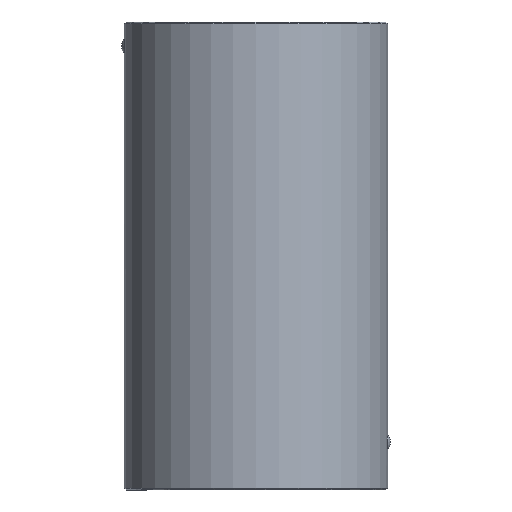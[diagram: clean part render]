
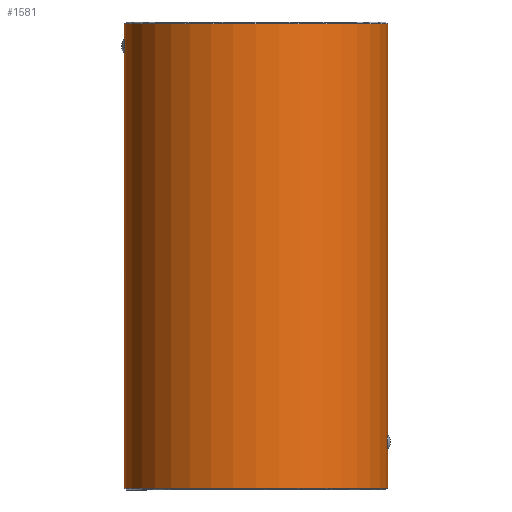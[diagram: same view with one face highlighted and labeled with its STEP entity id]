
A CAD part, front view. The second image highlights one B-rep face of the part: STEP entity #1581.
In plain terms, the highlighted cylindrical face has radius 22.5 mm (diameter 45 mm), a partial arc.
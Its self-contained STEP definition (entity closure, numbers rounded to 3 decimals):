
#1363=CARTESIAN_POINT('Vertex',(-22.5,0.,0.3)) ;
#1370=CARTESIAN_POINT('Vertex',(22.5,0.,0.3)) ;
#1373=CARTESIAN_POINT('Axis2P3D Location',(0.,0.,0.3)) ;
#1491=CARTESIAN_POINT('Axis2P3D Location',(0.,0.,80.)) ;
#1496=CARTESIAN_POINT('Line Origine',(22.5,0.,80.)) ;
#1500=CARTESIAN_POINT('Vertex',(22.5,0.,6.877)) ;
#1504=CARTESIAN_POINT('Control Point',(22.458,-1.369,8.201)) ;
#1505=CARTESIAN_POINT('Control Point',(22.458,-1.369,7.777)) ;
#1506=CARTESIAN_POINT('Control Point',(22.469,-1.194,7.356)) ;
#1507=CARTESIAN_POINT('Control Point',(22.49,-0.847,7.034)) ;
#1508=CARTESIAN_POINT('Control Point',(22.5,-0.424,6.877)) ;
#1509=CARTESIAN_POINT('Control Point',(22.5,0.,6.877)) ;
#1510=CARTESIAN_POINT('Vertex',(22.458,-1.369,8.201)) ;
#1514=CARTESIAN_POINT('Control Point',(22.5,0.,9.523)) ;
#1515=CARTESIAN_POINT('Control Point',(22.5,-0.423,9.523)) ;
#1516=CARTESIAN_POINT('Control Point',(22.49,-0.842,9.368)) ;
#1517=CARTESIAN_POINT('Control Point',(22.469,-1.194,9.046)) ;
#1518=CARTESIAN_POINT('Control Point',(22.458,-1.368,8.624)) ;
#1519=CARTESIAN_POINT('Control Point',(22.458,-1.369,8.201)) ;
#1520=CARTESIAN_POINT('Vertex',(22.5,0.,9.523)) ;
#1523=CARTESIAN_POINT('Line Origine',(22.5,0.,80.)) ;
#1527=CARTESIAN_POINT('Vertex',(22.5,0.,79.7)) ;
#1530=CARTESIAN_POINT('Axis2P3D Location',(0.,0.,79.7)) ;
#1534=CARTESIAN_POINT('Vertex',(-22.5,0.,79.7)) ;
#1537=CARTESIAN_POINT('Line Origine',(-22.5,0.,80.)) ;
#1541=CARTESIAN_POINT('Vertex',(-22.5,0.,77.223)) ;
#1545=CARTESIAN_POINT('Control Point',(-22.458,-1.369,75.899)) ;
#1546=CARTESIAN_POINT('Control Point',(-22.458,-1.369,76.323)) ;
#1547=CARTESIAN_POINT('Control Point',(-22.469,-1.194,76.744)) ;
#1548=CARTESIAN_POINT('Control Point',(-22.49,-0.847,77.066)) ;
#1549=CARTESIAN_POINT('Control Point',(-22.5,-0.424,77.223)) ;
#1550=CARTESIAN_POINT('Control Point',(-22.5,0.,77.223)) ;
#1551=CARTESIAN_POINT('Vertex',(-22.458,-1.369,75.899)) ;
#1555=CARTESIAN_POINT('Control Point',(-22.5,0.,74.577)) ;
#1556=CARTESIAN_POINT('Control Point',(-22.5,-0.423,74.577)) ;
#1557=CARTESIAN_POINT('Control Point',(-22.49,-0.842,74.732)) ;
#1558=CARTESIAN_POINT('Control Point',(-22.469,-1.194,75.054)) ;
#1559=CARTESIAN_POINT('Control Point',(-22.458,-1.368,75.476)) ;
#1560=CARTESIAN_POINT('Control Point',(-22.458,-1.369,75.899)) ;
#1561=CARTESIAN_POINT('Vertex',(-22.5,0.,74.577)) ;
#1564=CARTESIAN_POINT('Line Origine',(-22.5,0.,80.)) ;
#1374=DIRECTION('Axis2P3D Direction',(0.,-0.,1.)) ;
#1492=DIRECTION('Axis2P3D Direction',(0.,0.,-1.)) ;
#1493=DIRECTION('Axis2P3D XDirection',(1.,0.,0.)) ;
#1497=DIRECTION('Vector Direction',(0.,0.,-1.)) ;
#1524=DIRECTION('Vector Direction',(0.,0.,-1.)) ;
#1531=DIRECTION('Axis2P3D Direction',(0.,0.,-1.)) ;
#1538=DIRECTION('Vector Direction',(0.,0.,-1.)) ;
#1565=DIRECTION('Vector Direction',(0.,0.,-1.)) ;
#1375=AXIS2_PLACEMENT_3D('Circle Axis2P3D',#1373,#1374,$) ;
#1494=AXIS2_PLACEMENT_3D('Cylinder Axis2P3D',#1491,#1492,#1493) ;
#1532=AXIS2_PLACEMENT_3D('Circle Axis2P3D',#1530,#1531,$) ;
#1570=ORIENTED_EDGE('',*,*,#1502,.T.) ;
#1571=ORIENTED_EDGE('',*,*,#1512,.F.) ;
#1572=ORIENTED_EDGE('',*,*,#1522,.F.) ;
#1573=ORIENTED_EDGE('',*,*,#1529,.T.) ;
#1574=ORIENTED_EDGE('',*,*,#1536,.F.) ;
#1575=ORIENTED_EDGE('',*,*,#1543,.T.) ;
#1576=ORIENTED_EDGE('',*,*,#1553,.F.) ;
#1577=ORIENTED_EDGE('',*,*,#1563,.F.) ;
#1578=ORIENTED_EDGE('',*,*,#1568,.T.) ;
#1579=ORIENTED_EDGE('',*,*,#1377,.T.) ;
#1498=VECTOR('Line Direction',#1497,1.) ;
#1525=VECTOR('Line Direction',#1524,1.) ;
#1539=VECTOR('Line Direction',#1538,1.) ;
#1566=VECTOR('Line Direction',#1565,1.) ;
#1581=ADVANCED_FACE('730-38x80',(#1580),#1495,.T.) ;
#1503=B_SPLINE_CURVE_WITH_KNOTS('',5,(#1504,#1505,#1506,#1507,#1508,#1509),.UNSPECIFIED.,.F.,.U.,(6,6),(0.,3.001),.UNSPECIFIED.) ;
#1513=B_SPLINE_CURVE_WITH_KNOTS('',5,(#1514,#1515,#1516,#1517,#1518,#1519),.UNSPECIFIED.,.F.,.U.,(6,6),(0.,2.995),.UNSPECIFIED.) ;
#1544=B_SPLINE_CURVE_WITH_KNOTS('',5,(#1545,#1546,#1547,#1548,#1549,#1550),.UNSPECIFIED.,.F.,.U.,(6,6),(0.,3.001),.UNSPECIFIED.) ;
#1554=B_SPLINE_CURVE_WITH_KNOTS('',5,(#1555,#1556,#1557,#1558,#1559,#1560),.UNSPECIFIED.,.F.,.U.,(6,6),(0.,2.995),.UNSPECIFIED.) ;
#1376=CIRCLE('generated circle',#1375,22.5) ;
#1533=CIRCLE('generated circle',#1532,22.5) ;
#1495=CYLINDRICAL_SURFACE('generated cylinder',#1494,22.5) ;
#1377=EDGE_CURVE('',#1364,#1371,#1376,.T.) ;
#1502=EDGE_CURVE('',#1371,#1501,#1499,.F.) ;
#1512=EDGE_CURVE('',#1511,#1501,#1503,.T.) ;
#1522=EDGE_CURVE('',#1521,#1511,#1513,.T.) ;
#1529=EDGE_CURVE('',#1521,#1528,#1526,.F.) ;
#1536=EDGE_CURVE('',#1535,#1528,#1533,.F.) ;
#1543=EDGE_CURVE('',#1535,#1542,#1540,.T.) ;
#1553=EDGE_CURVE('',#1552,#1542,#1544,.T.) ;
#1563=EDGE_CURVE('',#1562,#1552,#1554,.T.) ;
#1568=EDGE_CURVE('',#1562,#1364,#1567,.T.) ;
#1569=EDGE_LOOP('',(#1570,#1571,#1572,#1573,#1574,#1575,#1576,#1577,#1578,#1579)) ;
#1580=FACE_OUTER_BOUND('',#1569,.T.) ;
#1499=LINE('Line',#1496,#1498) ;
#1526=LINE('Line',#1523,#1525) ;
#1540=LINE('Line',#1537,#1539) ;
#1567=LINE('Line',#1564,#1566) ;
#1364=VERTEX_POINT('',#1363) ;
#1371=VERTEX_POINT('',#1370) ;
#1501=VERTEX_POINT('',#1500) ;
#1511=VERTEX_POINT('',#1510) ;
#1521=VERTEX_POINT('',#1520) ;
#1528=VERTEX_POINT('',#1527) ;
#1535=VERTEX_POINT('',#1534) ;
#1542=VERTEX_POINT('',#1541) ;
#1552=VERTEX_POINT('',#1551) ;
#1562=VERTEX_POINT('',#1561) ;
